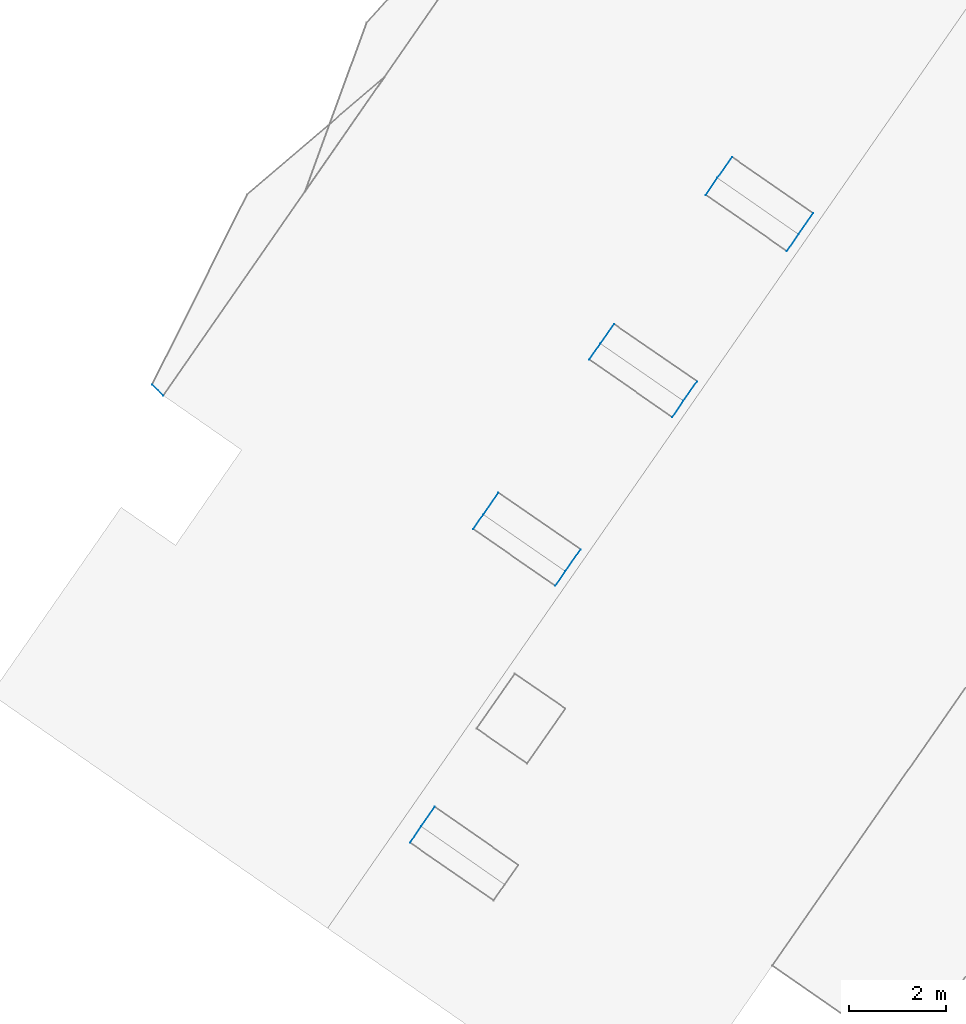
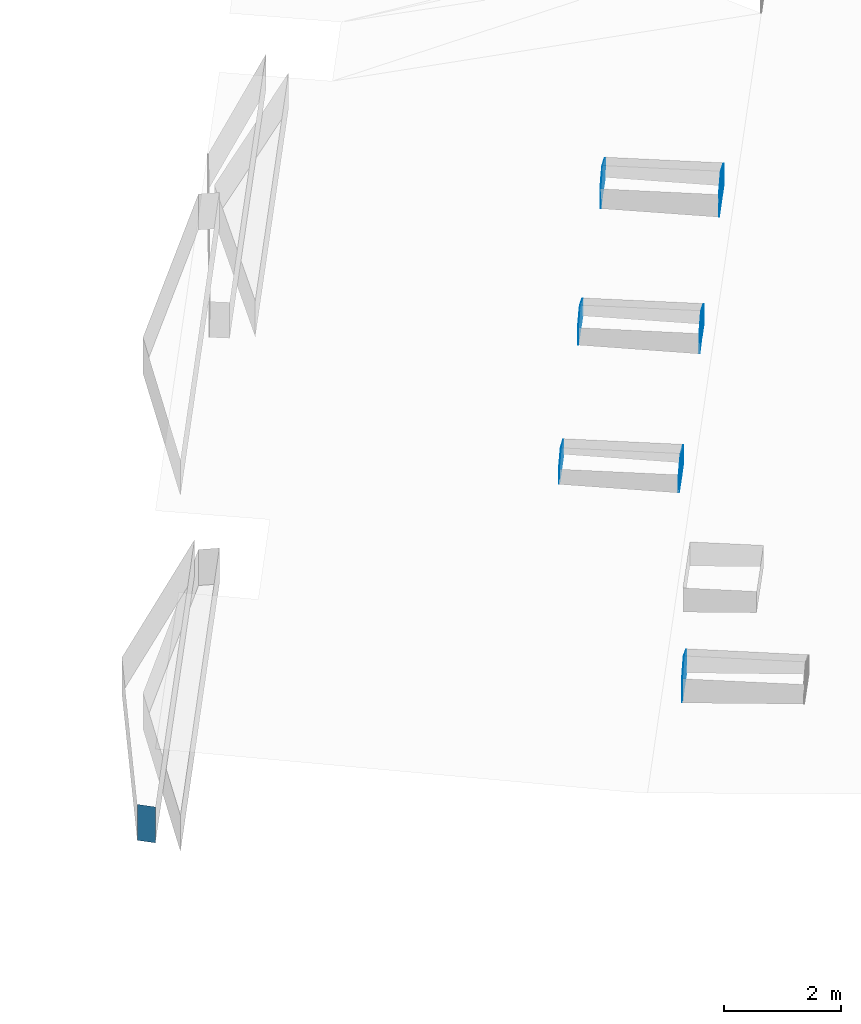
# Not in any storey, part 96 of 136: 16 walls.
"""IFC4 building model written with IfcOpenShell, lengths in metres."""

import ifcopenshell
import ifcopenshell.guid

model = None  # the IFC model being written
_history = None  # IfcOwnerHistory: only IFC2X3 demands one
_inside = {}  # id of a spatial element -> (the spatial element, [elements in it])
_under = {}  # id of a project, library or spatial element -> (it, [spatial elements below it])
_declared = {}  # id of a project -> (the project, [libraries it declares])
_typed = {}  # id of a type object -> (the type object, [elements of that type])
_made_of = {}  # id of a material, layer set ... -> (it, [elements and type objects made of it])


def new_model(schema):
    """Start an empty IFC model of exactly this schema.

    Asked for "IFC4X3", IfcOpenShell would pick the latest addendum, in which some entities
    have other attributes; the version numbers below select the first issue.
    IFC2X3 requires an IfcOwnerHistory on every rooted entity: one is made here for all.
    """
    global model, _history
    if schema == "IFC4X3":
        model = ifcopenshell.file(schema_version=(4, 3, 0, 0))
    else:
        model = ifcopenshell.file(schema=schema)
    _inside.clear()
    _under.clear()
    _declared.clear()
    _typed.clear()
    _made_of.clear()
    _history = None
    if model.schema == "IFC2X3":
        org = make("IfcOrganization", Name="unknown")
        user = make(
            "IfcPersonAndOrganization",
            ThePerson=make("IfcPerson", FamilyName="unknown"),
            TheOrganization=org,
        )
        app = make(
            "IfcApplication",
            ApplicationDeveloper=org,
            Version="unknown",
            ApplicationFullName="unknown",
            ApplicationIdentifier="unknown",
        )
        _history = make(
            "IfcOwnerHistory",
            OwningUser=user,
            OwningApplication=app,
            ChangeAction="ADDED",
            CreationDate=0,
        )
    return model


def make(cls, **values):
    """One entity of the class cls with the attributes given. An attribute that is None is left unset."""
    return model.create_entity(
        cls, **{name: value for name, value in values.items() if value is not None}
    )


def entity(cls, *values):
    """Any entity or typed value of the class cls, its attributes in the order of the schema. None: left unset."""
    e = model.create_entity(cls)
    for i, value in enumerate(values):
        if value is not None:
            e[i] = value
    return e


def rooted(cls, **values):
    """An entity with a GlobalId (a new one), such as an element, a storey or a relation."""
    return make(cls, GlobalId=ifcopenshell.guid.new(), OwnerHistory=_history, **values)


def si_unit(unit_type, name, prefix=None):
    """IfcSIUnit, for example si_unit("LENGTHUNIT", "METRE", prefix="MILLI")."""
    return make("IfcSIUnit", UnitType=unit_type, Prefix=prefix, Name=name)


def converted_unit(unit_type, name, factor, base, dimensions=None, offset=None):
    """IfcConversionBasedUnit, such as the inch: factor (a typed value) times the base unit."""
    return make(
        "IfcConversionBasedUnit"
        if offset is None
        else "IfcConversionBasedUnitWithOffset",
        ConversionOffset=offset,
        Dimensions=None
        if dimensions is None
        else entity("IfcDimensionalExponents", *dimensions),
        UnitType=unit_type,
        Name=name,
        ConversionFactor=make(
            "IfcMeasureWithUnit", ValueComponent=factor, UnitComponent=base
        ),
    )


def assignment(units):
    """IfcUnitAssignment: the units of a project."""
    return None if units is None else make("IfcUnitAssignment", Units=units)


def point(xyz):
    """IfcCartesianPoint."""
    return None if xyz is None else make("IfcCartesianPoint", Coordinates=xyz)


def direction(xyz):
    """IfcDirection."""
    return None if xyz is None else make("IfcDirection", DirectionRatios=xyz)


def frame(location, z_axis=None, x_axis=None):
    """IfcAxis2Placement3D, a coordinate frame: its origin and axes. An axis left out is left unset."""
    return make(
        "IfcAxis2Placement3D",
        Location=point(location),
        Axis=direction(z_axis),
        RefDirection=direction(x_axis),
    )


def origin():
    """The frame at (0, 0, 0) with its axes left unset."""
    return frame((0.0, 0.0, 0.0))


def place(relative_to, where):
    """IfcLocalPlacement: puts the frame where relative to a parent placement (None: the world)."""
    return make(
        "IfcLocalPlacement", PlacementRelTo=relative_to, RelativePlacement=where
    )


def context(
    kind, dimensions, precision=None, world=None, true_north=None, identifier=None
):
    """IfcGeometricRepresentationContext, for example the 3D "Model" context."""
    return make(
        "IfcGeometricRepresentationContext",
        ContextIdentifier=identifier,
        ContextType=kind,
        CoordinateSpaceDimension=dimensions,
        Precision=precision,
        WorldCoordinateSystem=world,
        TrueNorth=true_north,
    )


def subcontext(parent, identifier, kind, view, scale=None):
    """IfcGeometricRepresentationSubContext, for example "Body" below "Model"."""
    return make(
        "IfcGeometricRepresentationSubContext",
        ContextIdentifier=identifier,
        ContextType=kind,
        ParentContext=parent,
        TargetScale=scale,
        TargetView=view,
    )


def project(units=None, contexts=None):
    """IfcProject with its units and contexts."""
    return rooted(
        "IfcProject",
        Name="project",
        RepresentationContexts=contexts,
        UnitsInContext=assignment(units),
    )


def spatial(cls, under=None, at=None, **own):
    """A site, building, storey or space (cls), placed at a placement, below another one or the project."""
    s = rooted(cls, ObjectPlacement=at, **own)
    if under is not None:
        _under.setdefault(under.id(), (under, []))[1].append(s)
    return s


def faces_of(points, faces, orient=None, outer=None):
    """IfcFace entities. A face is a list of loops; a loop is a list of indices into points, from 0.

    orient and outer hold one flag for each loop. By default every Orientation is true, the
    first loop of a face is its IfcFaceOuterBound and the others are IfcFaceBound.
    """
    made = []
    for i, loops in enumerate(faces):
        bounds = []
        for j, loop in enumerate(loops):
            is_outer = j == 0 if outer is None else outer[i][j]
            bounds.append(
                make(
                    "IfcFaceOuterBound" if is_outer else "IfcFaceBound",
                    Bound=make("IfcPolyLoop", Polygon=[points[k] for k in loop]),
                    Orientation=True if orient is None else orient[i][j],
                )
            )
        made.append(make("IfcFace", Bounds=bounds))
    return made


def face_set(faces, orient=None, outer=None):
    """The faces of one IfcConnectedFaceSet. surface_model builds it on its shared points."""
    return ("IfcConnectedFaceSet", faces, orient, outer)


def surface_model(cls, points, shells):
    """IfcFaceBasedSurfaceModel or IfcShellBasedSurfaceModel (cls): surfaces that need not close."""
    shared = [point(p) for p in points]
    made = [make(c, CfsFaces=faces_of(shared, fs, o, b)) for c, fs, o, b in shells]
    if cls == "IfcFaceBasedSurfaceModel":
        return make(cls, FbsmFaces=made)
    return make(cls, SbsmBoundary=made)


def shape(context_of_items, identifier, shape_type, items):
    """IfcShapeRepresentation: the items that make up one representation, for example the "Body"."""
    return make(
        "IfcShapeRepresentation",
        ContextOfItems=context_of_items,
        RepresentationIdentifier=identifier,
        RepresentationType=shape_type,
        Items=items,
    )


def made_of(thing, what):
    """Note that an element or type object is made of a material, layer set ...; save() writes the relation."""
    if what is not None:
        _made_of.setdefault(what.id(), (what, []))[1].append(thing)
    return thing


def element(
    cls,
    number,
    at=None,
    inside=None,
    cuts=None,
    type_object=None,
    material=None,
    context=None,
    identifier="Body",
    shape_type=None,
    held_by="IfcProductDefinitionShape",
    body=None,
    shapes=None,
    **own,
):
    """One element of the class cls, such as IfcWall. Its Tag is "e" and its number.

    at: its placement. inside: the storey or other place that contains it. cuts: it is an
    opening in that element (IfcRelVoidsElement). A single representation is given by context,
    identifier, shape_type and body (its items); several are given by shapes. held_by: the class
    of the entity that holds the representations. save() writes the other relations.
    """
    e = rooted(cls, Tag="e%d" % number, ObjectPlacement=at, **own)
    if body is not None:
        shapes = [shape(context, identifier, shape_type, body)]
    if shapes is not None:
        e.Representation = make(held_by, Representations=shapes)
    if inside is not None:
        _inside.setdefault(inside.id(), (inside, []))[1].append(e)
    if cuts is not None:
        rooted(
            "IfcRelVoidsElement", RelatingBuildingElement=cuts, RelatedOpeningElement=e
        )
    if type_object is not None:
        _typed.setdefault(type_object.id(), (type_object, []))[1].append(e)
    return made_of(e, material)


def aggregate(whole, parts):
    """IfcRelAggregates: a whole, such as a stair, and the parts it consists of."""
    return rooted("IfcRelAggregates", RelatingObject=whole, RelatedObjects=parts)


def save(model, path):
    """Write the relations noted so far, then the file.

    IfcRelAggregates (storeys below a building ...), IfcRelContainedInSpatialStructure (elements
    in a storey), IfcRelDefinesByType, IfcRelAssociatesMaterial and IfcRelDeclares: one each for
    every whole, place, type object, material and project.
    """
    for whole, parts in _under.values():
        aggregate(whole, parts)
    for where, things in _inside.values():
        rooted(
            "IfcRelContainedInSpatialStructure",
            RelatedElements=things,
            RelatingStructure=where,
        )
    for kind, things in _typed.values():
        rooted("IfcRelDefinesByType", RelatedObjects=things, RelatingType=kind)
    for what, things in _made_of.values():
        rooted("IfcRelAssociatesMaterial", RelatedObjects=things, RelatingMaterial=what)
    for by, libraries in _declared.values():
        rooted("IfcRelDeclares", RelatingContext=by, RelatedDefinitions=libraries)
    model.write(path)


model = new_model("IFC4")

# Units and contexts
model_context = context("Model", 3, precision=1e-05, world=origin())
body_context = subcontext(model_context, "Body", "Model", "MODEL_VIEW")
ifc_project = project(units=[converted_unit("PLANEANGLEUNIT", "DEGREE", entity("IfcRatioMeasure", 0.0174532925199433), si_unit("PLANEANGLEUNIT", "RADIAN"), dimensions=[0, 0, 0, 0, 0, 0, 0]), si_unit("AREAUNIT", "SQUARE_METRE"), si_unit("LENGTHUNIT", "METRE")], contexts=[model_context])

# Site, building
site_placement = place(None, origin())
site = spatial("IfcSite", under=ifc_project, at=site_placement, Name="_site")
building_placement = place(site_placement, origin())
building = spatial("IfcBuilding", under=site, at=building_placement, Name="_building")

# Walls
wall_1_placement = place(building_placement, origin())
element("IfcWall", 1, at=wall_1_placement, inside=building, Name="Wall", PredefinedType="NOTDEFINED", context=body_context, shape_type="SurfaceModel", body=[
    surface_model("IfcFaceBasedSurfaceModel", [(-46.46, 66.91, 54.18), (-46.74, 66.51, 54.37), (-46.74, 66.51, 53.75), (-46.46, 66.91, 53.745)], [face_set([[[0, 1, 2, 3]]])]),
])
wall_2_placement = place(building_placement, origin())
element("IfcWall", 2, at=wall_2_placement, inside=building, Name="Wall", PredefinedType="NOTDEFINED", context=body_context, shape_type="SurfaceModel", body=[
    surface_model("IfcFaceBasedSurfaceModel", [(-48.45, 67.69, 54.37), (-48.17, 68.09, 54.18), (-48.17, 68.09, 53.805), (-48.45, 67.69, 53.811)], [face_set([[[0, 1, 2, 3]]])]),
])
for number, where, name in (
    (3, (0.0, 0.0, 0.0), "Wall"),
    (4, (0.0, 0.0, 0.0), "Wall"),
):
    element("IfcWall", number, at=place(building_placement, frame(where)), inside=building, Name=name, PredefinedType="NOTDEFINED", context=body_context, shape_type="SurfaceModel", body=[
        surface_model("IfcFaceBasedSurfaceModel", [(-57.45, 66.62, 46.95), (-57.68, 66.84, 46.95), (-57.68, 66.84, 47.7), (-57.45, 66.62, 47.7)], [face_set([[[0, 1, 2, 3]]])]),
    ])
wall_3_placement = place(building_placement, origin())
element("IfcWall", 5, at=wall_3_placement, inside=building, Name="Wall", PredefinedType="NOTDEFINED", context=body_context, shape_type="SurfaceModel", body=[
    surface_model("IfcFaceBasedSurfaceModel", [(-48.86, 63.45, 54.18), (-49.17, 63.0, 54.37), (-49.17, 63.0, 53.799), (-48.86, 63.45, 53.793)], [face_set([[[0, 1, 2, 3]]])]),
])
wall_4_placement = place(building_placement, origin())
element("IfcWall", 6, at=wall_4_placement, inside=building, Name="Wall", PredefinedType="NOTDEFINED", context=body_context, shape_type="SurfaceModel", body=[
    surface_model("IfcFaceBasedSurfaceModel", [(-51.07, 63.87, 54.18), (-50.86, 64.17, 54.37), (-50.86, 64.17, 53.859), (-51.07, 63.87, 53.863)], [face_set([[[0, 1, 2, 3]]])]),
])
wall_5_placement = place(building_placement, origin())
element("IfcWall", 7, at=wall_5_placement, inside=building, Name="Wall", PredefinedType="NOTDEFINED", context=body_context, shape_type="SurfaceModel", body=[
    surface_model("IfcFaceBasedSurfaceModel", [(-46.04, 71.101, 54.37), (-45.74, 71.53, 54.18), (-45.74, 71.53, 53.757), (-46.04, 71.101, 53.763)], [face_set([[[0, 1, 2, 3]]])]),
])
wall_6_placement = place(building_placement, origin())
element("IfcWall", 8, at=wall_6_placement, inside=building, Name="Wall", PredefinedType="NOTDEFINED", context=body_context, shape_type="SurfaceModel", body=[
    surface_model("IfcFaceBasedSurfaceModel", [(-52.37, 57.41, 54.18), (-52.14, 57.75, 54.37), (-52.14, 57.75, 53.675), (-52.37, 57.41, 53.675)], [face_set([[[0, 1, 2, 3]]])]),
])
wall_7_placement = place(building_placement, origin())
element("IfcWall", 9, at=wall_7_placement, inside=building, Name="Wall", PredefinedType="NOTDEFINED", context=body_context, shape_type="SurfaceModel", body=[
    surface_model("IfcFaceBasedSurfaceModel", [(-46.28, 70.75, 54.18), (-46.04, 71.101, 54.37), (-46.04, 71.101, 53.763), (-46.28, 70.75, 53.767)], [face_set([[[0, 1, 2, 3]]])]),
])
wall_8_placement = place(building_placement, origin())
element("IfcWall", 10, at=wall_8_placement, inside=building, Name="Wall", PredefinedType="NOTDEFINED", context=body_context, shape_type="SurfaceModel", body=[
    surface_model("IfcFaceBasedSurfaceModel", [(-44.37, 69.94, 54.37), (-44.61, 69.59, 54.18), (-44.61, 69.59, 53.708), (-44.37, 69.94, 53.703)], [face_set([[[0, 1, 2, 3]]])]),
])
wall_9_placement = place(building_placement, origin())
element("IfcWall", 11, at=wall_9_placement, inside=building, Name="Wall", PredefinedType="NOTDEFINED", context=body_context, shape_type="SurfaceModel", body=[
    surface_model("IfcFaceBasedSurfaceModel", [(-48.68, 67.36, 54.18), (-48.45, 67.69, 54.37), (-48.45, 67.69, 53.811), (-48.68, 67.36, 53.816)], [face_set([[[0, 1, 2, 3]]])]),
])
wall_10_placement = place(building_placement, origin())
element("IfcWall", 12, at=wall_10_placement, inside=building, Name="Wall", PredefinedType="NOTDEFINED", context=body_context, shape_type="SurfaceModel", body=[
    surface_model("IfcFaceBasedSurfaceModel", [(-46.74, 66.51, 54.37), (-46.97, 66.17, 54.18), (-46.97, 66.17, 53.755), (-46.74, 66.51, 53.75)], [face_set([[[0, 1, 2, 3]]])]),
])
wall_11_placement = place(building_placement, origin())
element("IfcWall", 13, at=wall_11_placement, inside=building, Name="Wall", PredefinedType="NOTDEFINED", context=body_context, shape_type="SurfaceModel", body=[
    surface_model("IfcFaceBasedSurfaceModel", [(-52.14, 57.75, 54.37), (-51.86, 58.15, 54.18), (-51.86, 58.15, 53.675), (-52.14, 57.75, 53.675)], [face_set([[[0, 1, 2, 3]]])]),
])
wall_12_placement = place(building_placement, origin())
element("IfcWall", 14, at=wall_12_placement, inside=building, Name="Wall", PredefinedType="NOTDEFINED", context=body_context, shape_type="SurfaceModel", body=[
    surface_model("IfcFaceBasedSurfaceModel", [(-50.86, 64.17, 54.37), (-50.55, 64.62, 54.18), (-50.55, 64.62, 53.853), (-50.86, 64.17, 53.859)], [face_set([[[0, 1, 2, 3]]])]),
])
wall_13_placement = place(building_placement, origin())
element("IfcWall", 15, at=wall_13_placement, inside=building, Name="Wall", PredefinedType="NOTDEFINED", context=body_context, shape_type="SurfaceModel", body=[
    surface_model("IfcFaceBasedSurfaceModel", [(-44.07, 70.37, 54.18), (-44.37, 69.94, 54.37), (-44.37, 69.94, 53.703), (-44.07, 70.37, 53.697)], [face_set([[[0, 1, 2, 3]]])]),
])
wall_14_placement = place(building_placement, origin())
element("IfcWall", 16, at=wall_14_placement, inside=building, Name="Wall", PredefinedType="NOTDEFINED", context=body_context, shape_type="SurfaceModel", body=[
    surface_model("IfcFaceBasedSurfaceModel", [(-49.17, 63.0, 54.37), (-49.38, 62.7, 54.18), (-49.38, 62.7, 53.803), (-49.17, 63.0, 53.799)], [face_set([[[0, 1, 2, 3]]])]),
])

save(model, "model.ifc")
